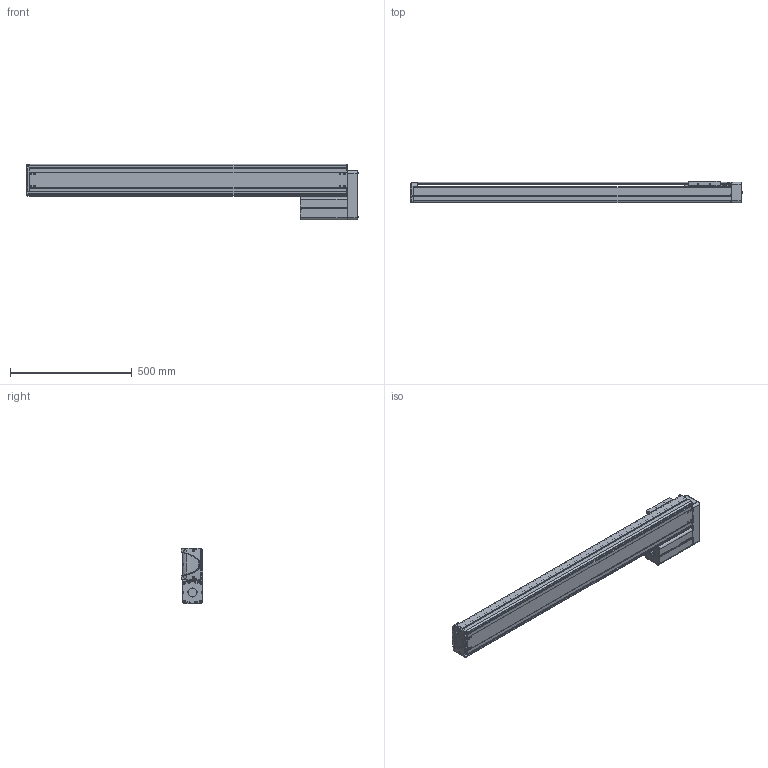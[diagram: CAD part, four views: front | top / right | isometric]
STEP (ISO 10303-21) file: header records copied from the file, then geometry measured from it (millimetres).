
FILE_DESCRIPTION((''),'2;1');
FILE_NAME('BE30E-UL-M_B-B0_IGS_PRT','2017-06-17T',(' '),(''),'PRO/ENGINEER BY PARAMETRIC TECHNOLOGY CORPORATION, 2015030','PRO/ENGINEER BY PARAMETRIC TECHNOLOGY CORPORATION, 2015030','');
FILE_SCHEMA(('CONFIG_CONTROL_DESIGN'));
Length unit declared in the file: millimetre
Products named in the file (1): BE30E-UL-M_B-B0_IGS_PRT
Bounding box: 1361.9 x 89.8 x 227 mm (x, y, z)
Volume: 4439262.2 mm3; surface area: 1885426.6 mm2
Topology: 2 solids, 133 shells, 2077 faces, 5608 edges, 3648 vertices
Faces by surface type: plane 1000, cylinder 887, cone 101, torus 37, bspline 28, sphere 24
Entity records: 67402 total; most frequent: CARTESIAN_POINT 14313, DIRECTION 11221, ORIENTED_EDGE 10641, EDGE_CURVE 5570, AXIS2_PLACEMENT_3D 3974, VERTEX_POINT 3648, VECTOR 3273, LINE 3273
